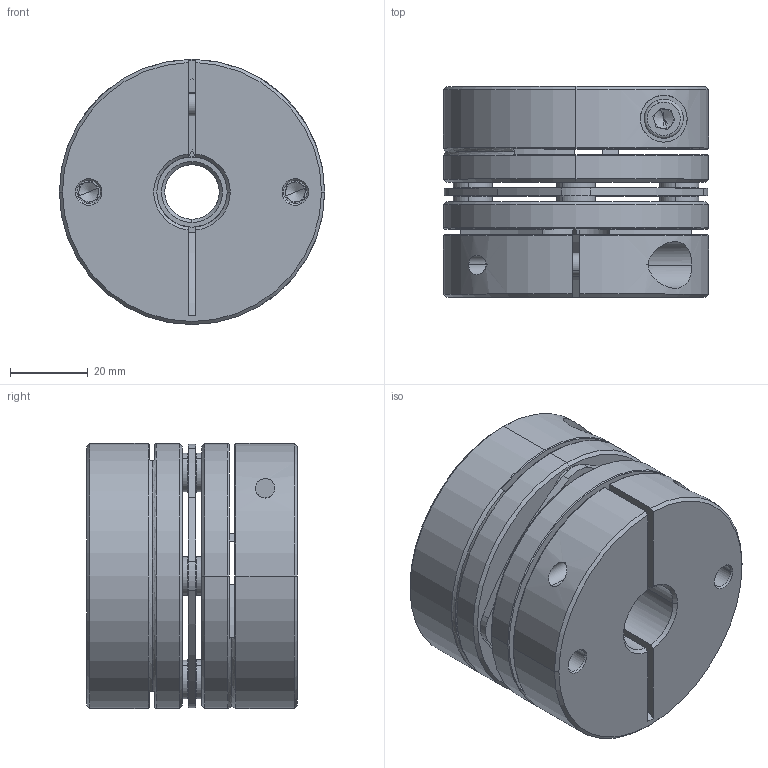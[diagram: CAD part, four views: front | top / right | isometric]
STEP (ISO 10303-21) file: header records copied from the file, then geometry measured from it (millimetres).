
FILE_DESCRIPTION (( 'STEP AP203' ), '1' );
FILE_NAME ('LD1-D68-14-18.STEP', '2021-10-26T07:42:53', ( '' ), ( '' ), 'SwSTEP 2.0', 'SolidWorks 2018', '' );
FILE_SCHEMA (( 'CONFIG_CONTROL_DESIGN' ));
Length unit declared in the file: millimetre
Products named in the file (2): LD1-D68-14-18; 錨璃101^LD1-D68
Assembly tree (1 placements, depth 2):
  LD1-D68-14-18
    錨璃101^LD1-D68
Bounding box: 68 x 54 x 68 mm (x, y, z)
Volume: 155980.7 mm3; surface area: 47281 mm2
Topology: 1 solids, 15 shells, 447 faces, 1075 edges, 660 vertices
Faces by surface type: cylinder 163, plane 140, cone 122, torus 22
Entity records: 13615 total; most frequent: CARTESIAN_POINT 2636, DIRECTION 2463, ORIENTED_EDGE 2118, EDGE_CURVE 1059, AXIS2_PLACEMENT_3D 999, VERTEX_POINT 660, CIRCLE 548, EDGE_LOOP 527
